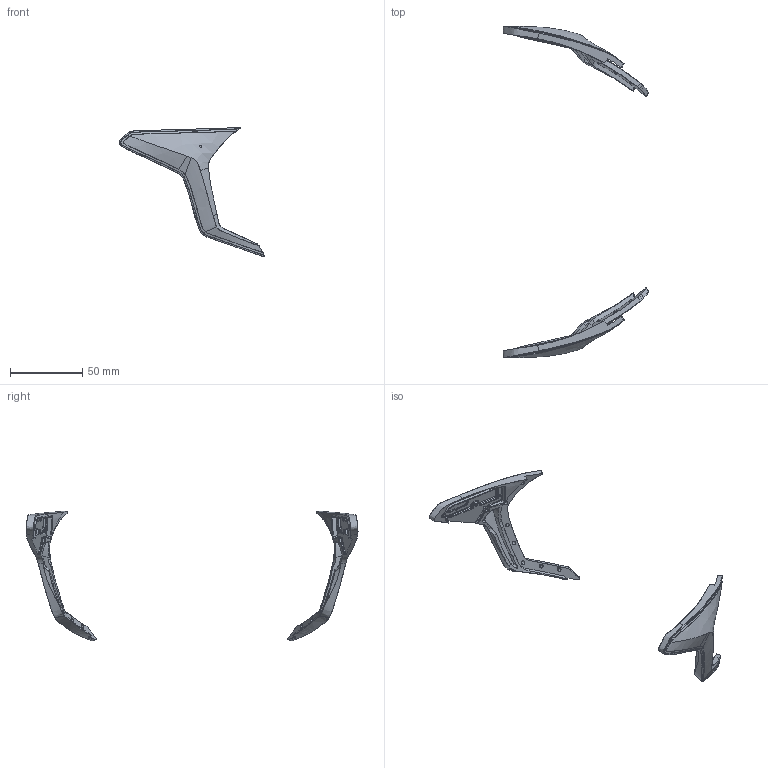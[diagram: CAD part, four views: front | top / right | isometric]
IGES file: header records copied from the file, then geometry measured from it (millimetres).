
Start section: SolidWorks IGES file using analytic representation for surfaces
Global section: file name: F:\onedrive\Aurak\Faclon\metal part\0520\SG19035.IGS; native system: SolidWorks 2020; preprocessor: SolidWorks 2020; author: ELWIN_SUNEVER; date: 200617.133721; units: millimetre
Bounding box: 100.81 x 229.25 x 89.47 mm (x, y, z)
Surface area: 17876.5 mm2 (no closed solid volume)
Topology: 0 solids, 0 shells, 530 faces, 7515 edges, 7505 vertices
Faces by surface type: bspline 530
